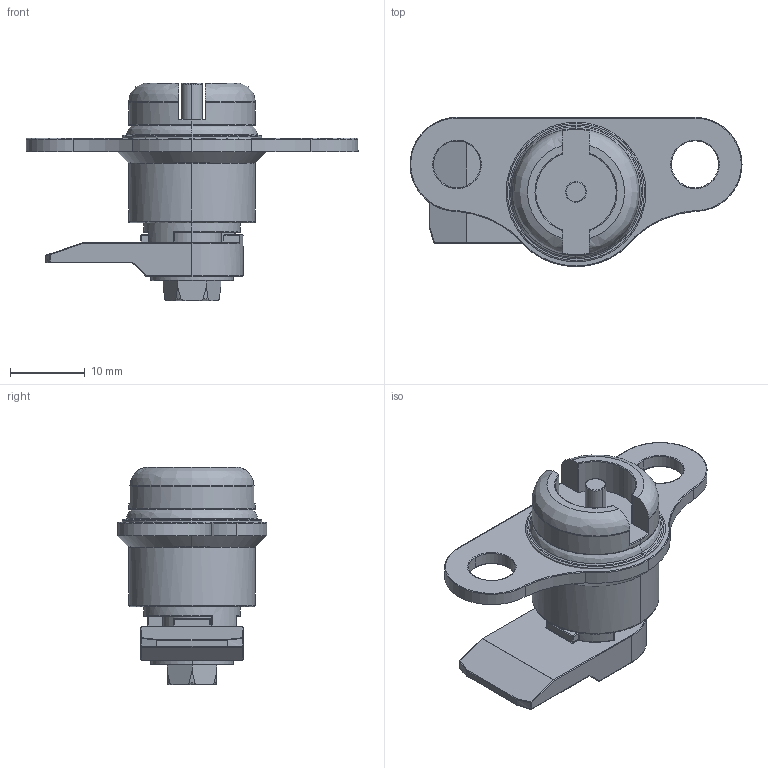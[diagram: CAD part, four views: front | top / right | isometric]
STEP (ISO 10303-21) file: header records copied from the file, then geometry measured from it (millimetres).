
FILE_DESCRIPTION (( 'STEP AP203' ), '1' );
FILE_NAME ('M19.STEP', '2007-02-15T21:25:49', ( 'SlawekZ' ), ( 'RST' ), 'SwSTEP 2.0', 'SolidWorks 2004231', '' );
FILE_SCHEMA (( 'CONFIG_CONTROL_DESIGN' ));
Length unit declared in the file: millimetre
Products named in the file (1): M19
Bounding box: 44.5 x 20 x 29.12 mm (x, y, z)
Volume: 7021 mm3; surface area: 5453.9 mm2
Topology: 5 solids, 5 shells, 359 faces, 941 edges, 596 vertices
Faces by surface type: plane 155, bspline 103, cylinder 90, cone 11
Entity records: 15456 total; most frequent: CARTESIAN_POINT 7544, ORIENTED_EDGE 1866, DIRECTION 1341, EDGE_CURVE 933, VERTEX_POINT 596, AXIS2_PLACEMENT_3D 469, VECTOR 403, LINE 403
